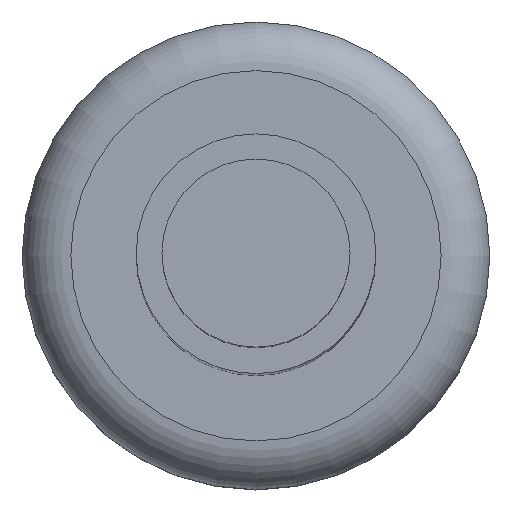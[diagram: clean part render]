
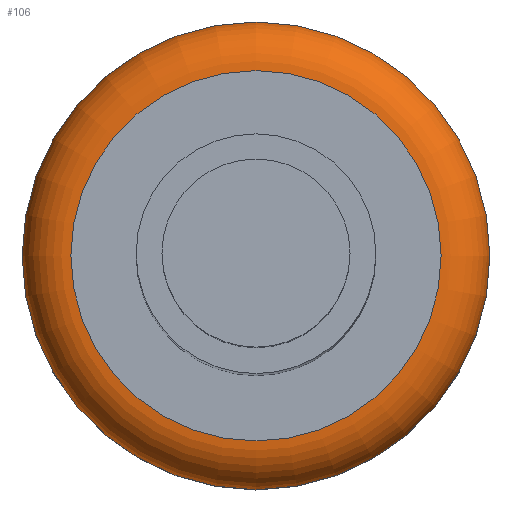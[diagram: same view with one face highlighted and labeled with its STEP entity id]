
A CAD part, top view. The second image highlights one B-rep face of the part: STEP entity #106.
In plain terms, the highlighted toroidal (fillet/blend) face has major radius 1.9 mm and minor radius 0.5 mm.
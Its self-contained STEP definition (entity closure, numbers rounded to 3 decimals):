
#35=TOROIDAL_SURFACE('',#280,1.9,0.5);
#106=ADVANCED_FACE('',(#124,#125),#35,.T.);
#124=FACE_BOUND('',#148,.T.);
#125=FACE_BOUND('',#149,.T.);
#148=EDGE_LOOP('',(#200));
#149=EDGE_LOOP('',(#201));
#200=ORIENTED_EDGE('',*,*,#225,.F.);
#201=ORIENTED_EDGE('',*,*,#226,.F.);
#205=VERTEX_POINT('',#359);
#206=VERTEX_POINT('',#362);
#225=EDGE_CURVE('',#205,#205,#251,.T.);
#226=EDGE_CURVE('',#206,#206,#252,.T.);
#251=CIRCLE('',#262,2.4);
#252=CIRCLE('',#264,1.9);
#262=AXIS2_PLACEMENT_3D('',#358,#293,#294);
#264=AXIS2_PLACEMENT_3D('',#361,#297,#298);
#280=AXIS2_PLACEMENT_3D('',#411,#347,#348);
#293=DIRECTION('',(0.,0.,-1.));
#294=DIRECTION('',(1.,0.,0.));
#297=DIRECTION('',(0.,0.,1.));
#298=DIRECTION('',(1.,0.,0.));
#347=DIRECTION('',(0.,0.,1.));
#348=DIRECTION('',(1.,0.,0.));
#358=CARTESIAN_POINT('',(-21.25,0.,1.95));
#359=CARTESIAN_POINT('',(-18.85,0.,1.95));
#361=CARTESIAN_POINT('',(-21.25,0.,2.45));
#362=CARTESIAN_POINT('',(-19.35,0.,2.45));
#411=CARTESIAN_POINT('',(-21.25,0.,1.95));
